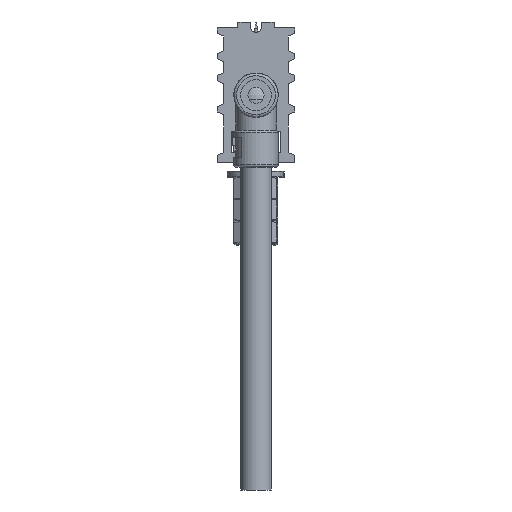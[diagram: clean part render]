
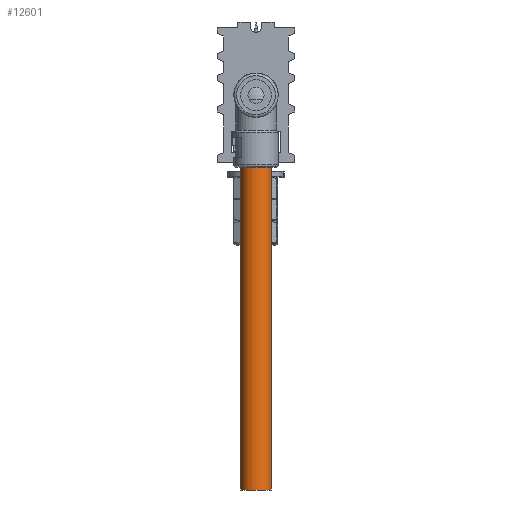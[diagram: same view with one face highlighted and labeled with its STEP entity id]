
A CAD part, left-side view. The second image highlights one B-rep face of the part: STEP entity #12601.
In plain terms, the highlighted cylindrical face has radius 5.75 mm (diameter 11.5 mm), a full revolution.
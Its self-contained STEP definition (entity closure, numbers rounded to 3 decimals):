
#4363=CYLINDRICAL_SURFACE('',#12186,5.75);
#4631=CIRCLE('',#12184,5.75);
#4633=CIRCLE('',#12187,5.75);
#5613=ORIENTED_EDGE('',*,*,#6995,.F.);
#5614=ORIENTED_EDGE('',*,*,#6997,.F.);
#6503=VERTEX_POINT('',#11748);
#6505=VERTEX_POINT('',#11753);
#6995=EDGE_CURVE('',#6503,#6503,#4631,.T.);
#6997=EDGE_CURVE('',#6505,#6505,#4633,.T.);
#7357=EDGE_LOOP('',(#5613));
#7358=EDGE_LOOP('',(#5614));
#7723=FACE_BOUND('',#7357,.T.);
#7724=FACE_BOUND('',#7358,.T.);
#8833=DIRECTION('',(0.,0.,1.));
#8834=DIRECTION('',(0.,5.75,0.));
#8837=DIRECTION('',(0.,0.,-1.));
#8838=DIRECTION('',(0.,-1.,0.));
#8839=DIRECTION('',(0.,0.,-1.));
#8840=DIRECTION('',(0.,5.75,0.));
#11748=CARTESIAN_POINT('',(79.045,-484.75,45.51));
#11749=CARTESIAN_POINT('',(79.045,-490.5,45.51));
#11752=CARTESIAN_POINT('',(79.045,-490.5,12.61));
#11753=CARTESIAN_POINT('',(79.045,-484.75,-87.39));
#11754=CARTESIAN_POINT('',(79.045,-490.5,-87.39));
#12184=AXIS2_PLACEMENT_3D('',#11749,#8833,#8834);
#12186=AXIS2_PLACEMENT_3D('',#11752,#8837,#8838);
#12187=AXIS2_PLACEMENT_3D('',#11754,#8839,#8840);
#12601=ADVANCED_FACE('',(#7723,#7724),#4363,.T.);
